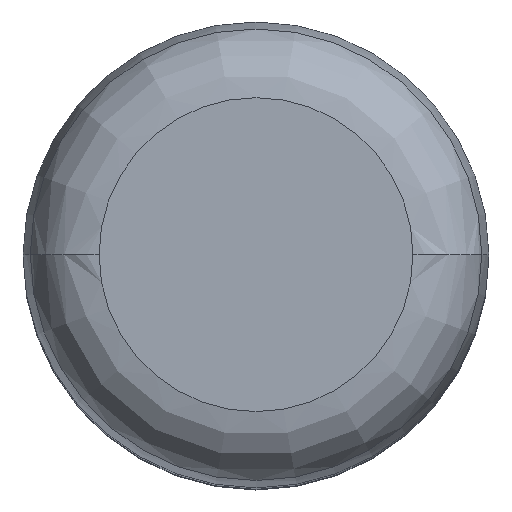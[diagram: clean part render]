
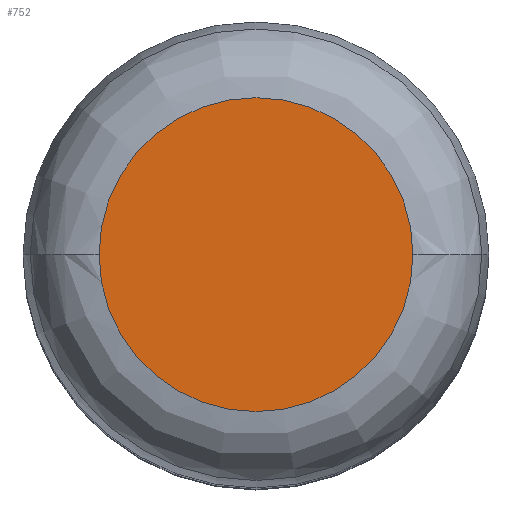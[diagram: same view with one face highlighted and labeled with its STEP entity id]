
A CAD part, top view. The second image highlights one B-rep face of the part: STEP entity #752.
In plain terms, the highlighted planar face has unit normal (0, 0, 1).
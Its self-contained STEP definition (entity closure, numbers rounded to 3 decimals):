
#145=VERTEX_POINT(' ',#146);
#146=CARTESIAN_POINT('',(-10.109,0.,100.));
#147=VERTEX_POINT(' ',#148);
#148=CARTESIAN_POINT('',(10.109,0.,100.));
#419=CIRCLE('',#420,10.109);
#420=AXIS2_PLACEMENT_3D('',#421,#422,#423);
#421=CARTESIAN_POINT('',(0.,0.,100.));
#422=DIRECTION('',(0.,0.,1.));
#423=DIRECTION('',(0.,1.,0.));
#424=EDGE_CURVE(' ',#147,#145,#419,.F.);
#425=CIRCLE('',#426,10.109);
#426=AXIS2_PLACEMENT_3D('',#427,#428,#429);
#427=CARTESIAN_POINT('',(0.,0.,100.));
#428=DIRECTION('',(0.,0.,1.));
#429=DIRECTION('',(0.,-1.,0.));
#430=EDGE_CURVE(' ',#145,#147,#425,.F.);
#743=ORIENTED_EDGE('',*,*,#424,.F.);
#744=ORIENTED_EDGE('',*,*,#430,.F.);
#745=EDGE_LOOP('',(#743,#744));
#746=FACE_OUTER_BOUND('',#745,.T.);
#747=PLANE('',#748);
#748=AXIS2_PLACEMENT_3D('',#749,#750,#751);
#749=CARTESIAN_POINT('',(0.,0.,100.));
#750=DIRECTION('',(0.,0.,1.));
#751=DIRECTION('',(0.,-1.,0.));
#752=ADVANCED_FACE('',(#746),#747,.T.);
